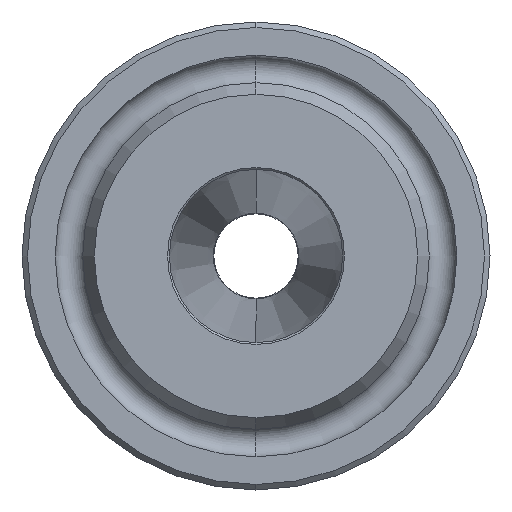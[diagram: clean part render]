
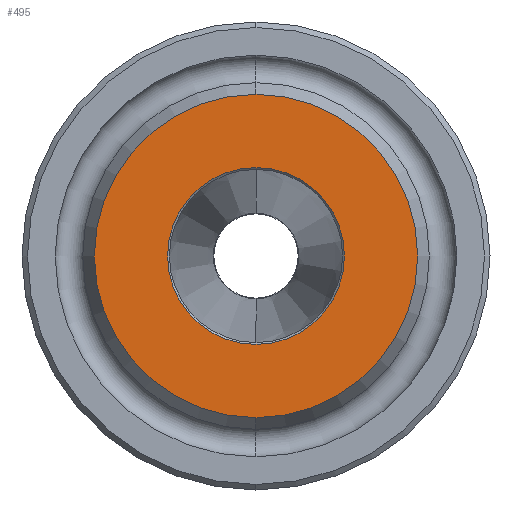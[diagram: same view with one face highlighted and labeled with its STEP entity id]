
A CAD part, left-side view. The second image highlights one B-rep face of the part: STEP entity #495.
In plain terms, the highlighted planar face has unit normal (-1, 0, 0).
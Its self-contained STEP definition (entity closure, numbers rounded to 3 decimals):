
#2 = AXIS2_PLACEMENT_3D ( 'NONE', #484, #490, #505 ) ;
#8 = AXIS2_PLACEMENT_3D ( 'NONE', #424, #672, #677 ) ;
#9 = VERTEX_POINT ( 'NONE', #765 ) ;
#66 = EDGE_LOOP ( 'NONE', ( #596, #1004 ) ) ;
#97 = DIRECTION ( 'NONE',  ( 0., 0., 1. ) ) ;
#221 = AXIS2_PLACEMENT_3D ( 'NONE', #1223, #1227, #915 ) ;
#226 = VERTEX_POINT ( 'NONE', #234 ) ;
#234 = CARTESIAN_POINT ( 'NONE',  ( -35.712, 0., -4.8 ) ) ;
#294 = EDGE_CURVE ( 'NONE', #226, #9, #332, .T. ) ;
#315 = CARTESIAN_POINT ( 'NONE',  ( -35.712, 0., -8.772 ) ) ;
#332 = CIRCLE ( 'NONE', #867, 4.8 ) ;
#424 = CARTESIAN_POINT ( 'NONE',  ( -35.712, 8.772, 0. ) ) ;
#484 = CARTESIAN_POINT ( 'NONE',  ( -35.712, 0., 0. ) ) ;
#490 = DIRECTION ( 'NONE',  ( -1., 0., 0. ) ) ;
#495 = ADVANCED_FACE ( 'NONE', ( #786, #1037 ), #654, .T. ) ;
#505 = DIRECTION ( 'NONE',  ( 0., 0., 1. ) ) ;
#556 = EDGE_LOOP ( 'NONE', ( #1018, #1318 ) ) ;
#589 = AXIS2_PLACEMENT_3D ( 'NONE', #905, #1220, #97 ) ;
#596 = ORIENTED_EDGE ( 'NONE', *, *, #1431, .F. ) ;
#654 = PLANE ( 'NONE',  #8 ) ;
#657 = EDGE_CURVE ( 'NONE', #968, #825, #1285, .T. ) ;
#672 = DIRECTION ( 'NONE',  ( -1., 0., 0. ) ) ;
#677 = DIRECTION ( 'NONE',  ( 0., 0., 1. ) ) ;
#765 = CARTESIAN_POINT ( 'NONE',  ( -35.712, 0., 4.8 ) ) ;
#786 = FACE_OUTER_BOUND ( 'NONE', #556, .T. ) ;
#814 = CIRCLE ( 'NONE', #589, 4.8 ) ;
#825 = VERTEX_POINT ( 'NONE', #315 ) ;
#867 = AXIS2_PLACEMENT_3D ( 'NONE', #992, #1001, #1006 ) ;
#905 = CARTESIAN_POINT ( 'NONE',  ( -35.712, 0., 0. ) ) ;
#915 = DIRECTION ( 'NONE',  ( 0., 0., 1. ) ) ;
#968 = VERTEX_POINT ( 'NONE', #1000 ) ;
#982 = EDGE_CURVE ( 'NONE', #825, #968, #1316, .T. ) ;
#992 = CARTESIAN_POINT ( 'NONE',  ( -35.712, 0., 0. ) ) ;
#1000 = CARTESIAN_POINT ( 'NONE',  ( -35.712, 0., 8.772 ) ) ;
#1001 = DIRECTION ( 'NONE',  ( -1., 0., 0. ) ) ;
#1004 = ORIENTED_EDGE ( 'NONE', *, *, #294, .F. ) ;
#1006 = DIRECTION ( 'NONE',  ( 0., 0., 1. ) ) ;
#1018 = ORIENTED_EDGE ( 'NONE', *, *, #982, .T. ) ;
#1037 = FACE_BOUND ( 'NONE', #66, .T. ) ;
#1220 = DIRECTION ( 'NONE',  ( -1., 0., 0. ) ) ;
#1223 = CARTESIAN_POINT ( 'NONE',  ( -35.712, 0., 0. ) ) ;
#1227 = DIRECTION ( 'NONE',  ( -1., 0., 0. ) ) ;
#1285 = CIRCLE ( 'NONE', #2, 8.772 ) ;
#1316 = CIRCLE ( 'NONE', #221, 8.772 ) ;
#1318 = ORIENTED_EDGE ( 'NONE', *, *, #657, .T. ) ;
#1431 = EDGE_CURVE ( 'NONE', #9, #226, #814, .T. ) ;
